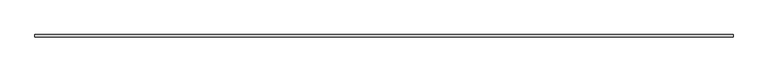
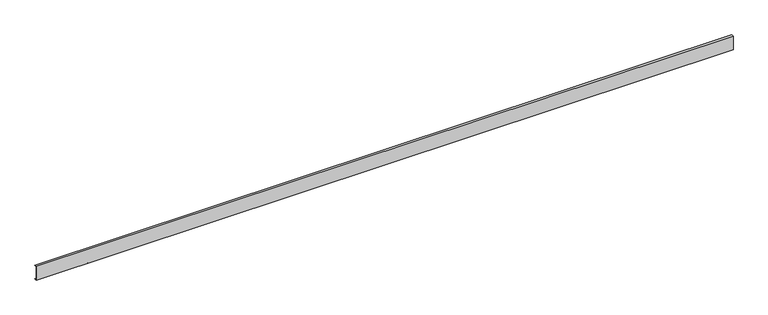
"""IFC4 building model written with IfcOpenShell, lengths in millimetres: beam geometry,  89469 :  89469."""

from ifc_helpers import new_model, si_unit, frame, origin, place, context, project, spatial, polyline, outline, extrude, source, transform, mapped, element, save


def beam_00c90e81(model_context):
    return source(origin(), model_context, "Body", "SweptSolid", [
        extrude(outline(polyline([(-24906.0, 8290.0), (-24856.0, 8290.0), (-24856.0, 8285.0), (-24901.0, 8285.0), (-24901.0, 7975.0), (-24856.0, 7975.0), (-24856.0, 7970.0), (-24906.0, 7970.0), (-24906.0, 8290.0)])), frame((-180.0000001, 0.0, 0.0), z_axis=(1.0, 0.0, 0.0), x_axis=(0.0, 1.0, 0.0)), (0.0, 0.0, 1.0), 15570.0),
    ])


if __name__ == "__main__":
    model = new_model("IFC4")
    model_context = context("Model", 3, world=origin())
    ifc_project = project(units=[si_unit("LENGTHUNIT", "METRE", prefix="MILLI")], contexts=[model_context])
    site = spatial("IfcSite", under=ifc_project)
    building = spatial("IfcBuilding", under=site)
    placement = place(None, origin())
    beam_shape = beam_00c90e81(model_context)
    element("IfcBeam", 1, ObjectType=" 89469 :  89469", at=placement, inside=building, context=model_context, shape_type="MappedRepresentation", body=[
        mapped(beam_shape, transform((0.0, 0.0, 0.0), x_axis=(1.0, 0.0, 0.0), y_axis=(0.0, 1.0, 0.0), z_axis=(0.0, 0.0, 1.0))),
    ])
    save(model, "model.ifc")
